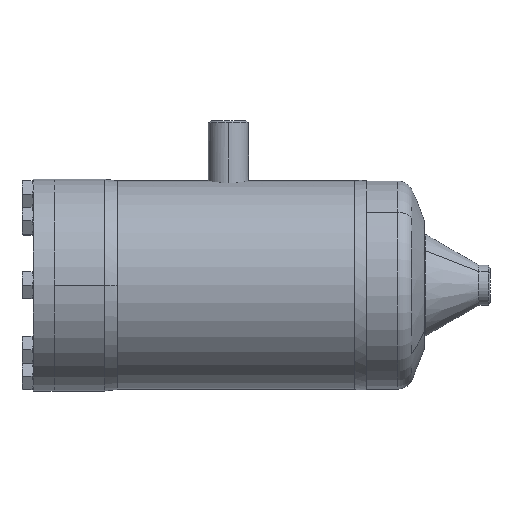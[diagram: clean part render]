
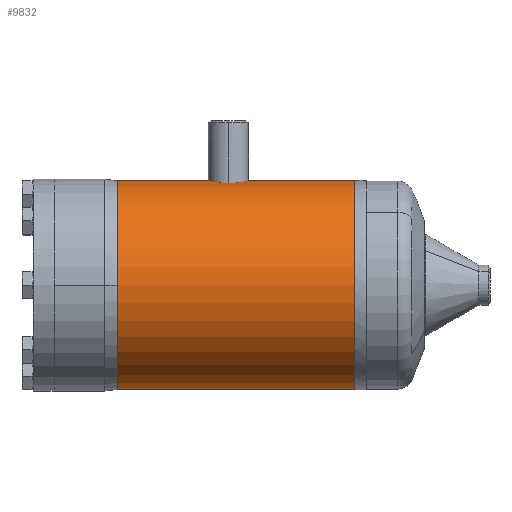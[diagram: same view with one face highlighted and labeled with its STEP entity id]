
A CAD part, left-side view. The second image highlights one B-rep face of the part: STEP entity #9832.
In plain terms, the highlighted cylindrical face has radius 69.85 mm (diameter 139.7 mm), a partial arc.
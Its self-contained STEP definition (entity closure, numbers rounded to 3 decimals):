
#247 = LINE ( 'NONE', #248, #249 ) ;
#248 = CARTESIAN_POINT ( 'NONE',  ( 0., 0., -69.85 ) ) ;
#249 = VECTOR ( 'NONE', #250, 1000. ) ;
#250 = DIRECTION ( 'NONE',  ( 0., -1., 0. ) ) ;
#1165 = ORIENTED_EDGE ( 'NONE', *, *, #9558, .F. ) ;
#2037 = VERTEX_POINT ( 'NONE', #9475 ) ;
#2112 = VERTEX_POINT ( 'NONE', #9510 ) ;
#2287 = VERTEX_POINT ( 'NONE', #9542 ) ;
#2404 = CARTESIAN_POINT ( 'NONE',  ( 0., 162.478, -69.85 ) ) ;
#2450 = ORIENTED_EDGE ( 'NONE', *, *, #7408, .F. ) ;
#2702 = CARTESIAN_POINT ( 'NONE',  ( 0., 162.478, 69.85 ) ) ;
#3126 = ORIENTED_EDGE ( 'NONE', *, *, #10218, .F. ) ;
#3552 = ORIENTED_EDGE ( 'NONE', *, *, #9083, .F. ) ;
#3639 = ORIENTED_EDGE ( 'NONE', *, *, #7495, .T. ) ;
#3819 = CIRCLE ( 'NONE', #3820, 69.85 ) ;
#3820 = AXIS2_PLACEMENT_3D ( 'NONE', #3821, #3825, #3826 ) ;
#3821 = CARTESIAN_POINT ( 'NONE',  ( 0., 162.478, 0. ) ) ;
#3825 = DIRECTION ( 'NONE',  ( 0., -1., 0. ) ) ;
#3826 = DIRECTION ( 'NONE',  ( 0., 0., -1. ) ) ;
#4655 = B_SPLINE_CURVE_WITH_KNOTS ( 'NONE', 3,
 ( #4656, #4657, #4658, #4659, #4660, #4661, #4662, #4663, #4664, #4665, #4668, #4669, #4670, #4671, #4672, #4673, #4674, #4675, #4676, #4677, #4678, #4679, #4680, #4681, #4682, #4683, #4687, #4688 ),
 .UNSPECIFIED., .F., .F.,
 ( 4, 2, 2, 2, 2, 2, 2, 2, 2, 2, 2, 2, 2, 4 ),
 ( 0.018, 0.02, 0.021, 0.023, 0.024, 0.025, 0.026, 0.028, 0.03, 0.031, 0.032, 0.035, 0.036, 0.037 ),
 .UNSPECIFIED. ) ;
#4656 = CARTESIAN_POINT ( 'NONE',  ( 0., 99.75, 69.85 ) ) ;
#4657 = CARTESIAN_POINT ( 'NONE',  ( -0.384, 99.75, 69.85 ) ) ;
#4658 = CARTESIAN_POINT ( 'NONE',  ( -0.769, 99.731, 69.847 ) ) ;
#4659 = CARTESIAN_POINT ( 'NONE',  ( -1.541, 99.655, 69.834 ) ) ;
#4660 = CARTESIAN_POINT ( 'NONE',  ( -1.925, 99.598, 69.824 ) ) ;
#4661 = CARTESIAN_POINT ( 'NONE',  ( -3.055, 99.372, 69.787 ) ) ;
#4662 = CARTESIAN_POINT ( 'NONE',  ( -3.788, 99.149, 69.751 ) ) ;
#4663 = CARTESIAN_POINT ( 'NONE',  ( -4.856, 98.706, 69.682 ) ) ;
#4664 = CARTESIAN_POINT ( 'NONE',  ( -5.208, 98.54, 69.656 ) ) ;
#4665 = CARTESIAN_POINT ( 'NONE',  ( -5.887, 98.176, 69.602 ) ) ;
#4668 = CARTESIAN_POINT ( 'NONE',  ( -6.216, 97.979, 69.574 ) ) ;
#4669 = CARTESIAN_POINT ( 'NONE',  ( -6.851, 97.554, 69.514 ) ) ;
#4670 = CARTESIAN_POINT ( 'NONE',  ( -7.158, 97.326, 69.483 ) ) ;
#4671 = CARTESIAN_POINT ( 'NONE',  ( -7.751, 96.84, 69.419 ) ) ;
#4672 = CARTESIAN_POINT ( 'NONE',  ( -8.037, 96.58, 69.387 ) ) ;
#4673 = CARTESIAN_POINT ( 'NONE',  ( -8.857, 95.76, 69.288 ) ) ;
#4674 = CARTESIAN_POINT ( 'NONE',  ( -9.342, 95.168, 69.224 ) ) ;
#4675 = CARTESIAN_POINT ( 'NONE',  ( -9.979, 94.214, 69.134 ) ) ;
#4676 = CARTESIAN_POINT ( 'NONE',  ( -10.177, 93.886, 69.105 ) ) ;
#4677 = CARTESIAN_POINT ( 'NONE',  ( -10.541, 93.205, 69.05 ) ) ;
#4678 = CARTESIAN_POINT ( 'NONE',  ( -10.708, 92.854, 69.025 ) ) ;
#4679 = CARTESIAN_POINT ( 'NONE',  ( -11.149, 91.788, 68.955 ) ) ;
#4680 = CARTESIAN_POINT ( 'NONE',  ( -11.372, 91.055, 68.918 ) ) ;
#4681 = CARTESIAN_POINT ( 'NONE',  ( -11.598, 89.924, 68.88 ) ) ;
#4682 = CARTESIAN_POINT ( 'NONE',  ( -11.655, 89.54, 68.871 ) ) ;
#4683 = CARTESIAN_POINT ( 'NONE',  ( -11.731, 88.768, 68.858 ) ) ;
#4687 = CARTESIAN_POINT ( 'NONE',  ( -11.75, 88.384, 68.855 ) ) ;
#4688 = CARTESIAN_POINT ( 'NONE',  ( -11.75, 88., 68.855 ) ) ;
#5015 = VERTEX_POINT ( 'NONE', #2404 ) ;
#5418 = B_SPLINE_CURVE_WITH_KNOTS ( 'NONE', 3,
 ( #5419, #5420, #5424, #5425, #5426, #5427, #5428, #5429, #5430, #5431, #5432, #5433, #5434, #5435, #5436, #5437, #5438, #5439, #5440, #5441, #5442, #5443, #5444, #5445, #5446 ),
 .UNSPECIFIED., .F., .F.,
 ( 4, 2, 2, 2, 2, 2, 2, 2, 2, 2, 1, 2, 4 ),
 ( 0.037, 0.039, 0.04, 0.041, 0.043, 0.044, 0.046, 0.048, 0.051, 0.052, 0.053, 0.054, 0.055 ),
 .UNSPECIFIED. ) ;
#5419 = CARTESIAN_POINT ( 'NONE',  ( -11.75, 88., 68.855 ) ) ;
#5420 = CARTESIAN_POINT ( 'NONE',  ( -11.75, 87.232, 68.855 ) ) ;
#5424 = CARTESIAN_POINT ( 'NONE',  ( -11.675, 86.468, 68.867 ) ) ;
#5425 = CARTESIAN_POINT ( 'NONE',  ( -11.449, 85.328, 68.905 ) ) ;
#5426 = CARTESIAN_POINT ( 'NONE',  ( -11.354, 84.951, 68.921 ) ) ;
#5427 = CARTESIAN_POINT ( 'NONE',  ( -11.13, 84.215, 68.958 ) ) ;
#5428 = CARTESIAN_POINT ( 'NONE',  ( -11.001, 83.855, 68.978 ) ) ;
#5429 = CARTESIAN_POINT ( 'NONE',  ( -10.708, 83.147, 69.025 ) ) ;
#5430 = CARTESIAN_POINT ( 'NONE',  ( -10.544, 82.801, 69.05 ) ) ;
#5431 = CARTESIAN_POINT ( 'NONE',  ( -10.181, 82.122, 69.104 ) ) ;
#5432 = CARTESIAN_POINT ( 'NONE',  ( -9.981, 81.788, 69.134 ) ) ;
#5433 = CARTESIAN_POINT ( 'NONE',  ( -9.338, 80.827, 69.224 ) ) ;
#5434 = CARTESIAN_POINT ( 'NONE',  ( -8.853, 80.236, 69.289 ) ) ;
#5435 = CARTESIAN_POINT ( 'NONE',  ( -7.77, 79.152, 69.419 ) ) ;
#5436 = CARTESIAN_POINT ( 'NONE',  ( -7.166, 78.657, 69.484 ) ) ;
#5437 = CARTESIAN_POINT ( 'NONE',  ( -5.892, 77.805, 69.604 ) ) ;
#5438 = CARTESIAN_POINT ( 'NONE',  ( -5.218, 77.444, 69.659 ) ) ;
#5439 = CARTESIAN_POINT ( 'NONE',  ( -4.149, 77., 69.728 ) ) ;
#5440 = CARTESIAN_POINT ( 'NONE',  ( -3.782, 76.869, 69.749 ) ) ;
#5441 = CARTESIAN_POINT ( 'NONE',  ( -3.044, 76.645, 69.785 ) ) ;
#5442 = CARTESIAN_POINT ( 'NONE',  ( -2.299, 76.458, 69.815 ) ) ;
#5443 = CARTESIAN_POINT ( 'NONE',  ( -1.541, 76.345, 69.834 ) ) ;
#5444 = CARTESIAN_POINT ( 'NONE',  ( -0.776, 76.269, 69.847 ) ) ;
#5445 = CARTESIAN_POINT ( 'NONE',  ( -0.388, 76.25, 69.85 ) ) ;
#5446 = CARTESIAN_POINT ( 'NONE',  ( 0., 76.25, 69.85 ) ) ;
#5597 = FACE_OUTER_BOUND ( 'NONE', #9591, .T. ) ;
#5598 = CYLINDRICAL_SURFACE ( 'NONE', #5599, 69.85 ) ;
#5599 = AXIS2_PLACEMENT_3D ( 'NONE', #5603, #5604, #5605 ) ;
#5603 = CARTESIAN_POINT ( 'NONE',  ( 0., 0., 0. ) ) ;
#5604 = DIRECTION ( 'NONE',  ( 0., -1., 0. ) ) ;
#5605 = DIRECTION ( 'NONE',  ( 0., 0., -1. ) ) ;
#5828 = CIRCLE ( 'NONE', #5829, 69.85 ) ;
#5829 = AXIS2_PLACEMENT_3D ( 'NONE', #5830, #5831, #5832 ) ;
#5830 = CARTESIAN_POINT ( 'NONE',  ( 0., 3.522, 0. ) ) ;
#5831 = DIRECTION ( 'NONE',  ( 0., -1., 0. ) ) ;
#5832 = DIRECTION ( 'NONE',  ( 0., 0., -1. ) ) ;
#6020 = CARTESIAN_POINT ( 'NONE',  ( -11.75, 88., 68.855 ) ) ;
#6187 = EDGE_CURVE ( 'NONE', #7633, #5015, #3819, .T. ) ;
#6548 = ORIENTED_EDGE ( 'NONE', *, *, #6187, .T. ) ;
#7039 = VERTEX_POINT ( 'NONE', #7995 ) ;
#7071 = EDGE_CURVE ( 'NONE', #7633, #7039, #8114, .T. ) ;
#7408 = EDGE_CURVE ( 'NONE', #2112, #2287, #10931, .T. ) ;
#7495 = EDGE_CURVE ( 'NONE', #5015, #2037, #247, .T. ) ;
#7633 = VERTEX_POINT ( 'NONE', #2702 ) ;
#7995 = CARTESIAN_POINT ( 'NONE',  ( 0., 99.75, 69.85 ) ) ;
#8114 = LINE ( 'NONE', #8115, #8116 ) ;
#8115 = CARTESIAN_POINT ( 'NONE',  ( 0., 0., 69.85 ) ) ;
#8116 = VECTOR ( 'NONE', #8117, 1000. ) ;
#8117 = DIRECTION ( 'NONE',  ( 0., -1., 0. ) ) ;
#9082 = ORIENTED_EDGE ( 'NONE', *, *, #7071, .F. ) ;
#9083 = EDGE_CURVE ( 'NONE', #7039, #10434, #4655, .T. ) ;
#9475 = CARTESIAN_POINT ( 'NONE',  ( 0., 3.522, -69.85 ) ) ;
#9510 = CARTESIAN_POINT ( 'NONE',  ( 0., 76.25, 69.85 ) ) ;
#9542 = CARTESIAN_POINT ( 'NONE',  ( 0., 3.522, 69.85 ) ) ;
#9558 = EDGE_CURVE ( 'NONE', #10434, #2112, #5418, .T. ) ;
#9591 = EDGE_LOOP ( 'NONE', ( #9082, #6548, #3639, #3126, #2450, #1165, #3552 ) ) ;
#9832 = ADVANCED_FACE ( 'NONE', ( #5597 ), #5598, .T. ) ;
#10218 = EDGE_CURVE ( 'NONE', #2287, #2037, #5828, .T. ) ;
#10434 = VERTEX_POINT ( 'NONE', #6020 ) ;
#10931 = LINE ( 'NONE', #10932, #10933 ) ;
#10932 = CARTESIAN_POINT ( 'NONE',  ( 0., 0., 69.85 ) ) ;
#10933 = VECTOR ( 'NONE', #10938, 1000. ) ;
#10938 = DIRECTION ( 'NONE',  ( 0., -1., 0. ) ) ;
